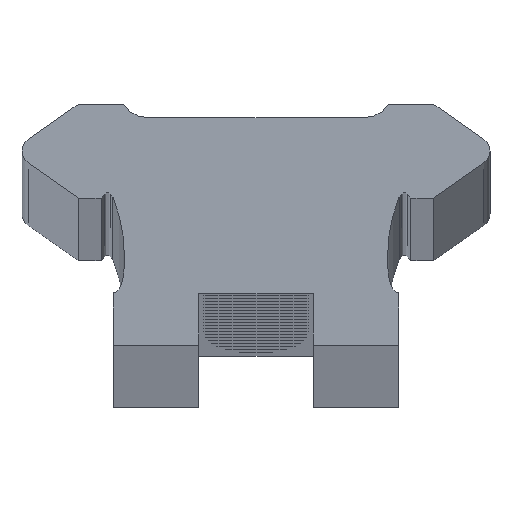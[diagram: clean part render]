
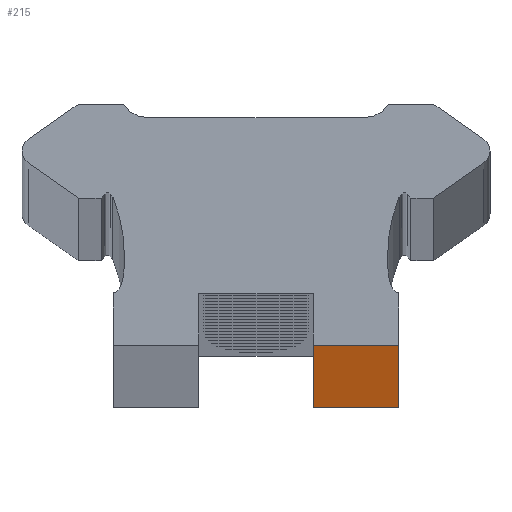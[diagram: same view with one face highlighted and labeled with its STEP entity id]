
A CAD part, top view. The second image highlights one B-rep face of the part: STEP entity #215.
In plain terms, the highlighted planar face has unit normal (0, -1, 0).
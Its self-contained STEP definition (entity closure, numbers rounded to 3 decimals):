
#215=ADVANCED_FACE('',(#545),#546,.T.);
#545=FACE_OUTER_BOUND('',#902,.T.);
#546=PLANE('',#903);
#902=EDGE_LOOP('',(#1959,#1960,#1961,#1962));
#903=AXIS2_PLACEMENT_3D('',#1963,#1964,#1965);
#1959=ORIENTED_EDGE('',*,*,#2480,.T.);
#1960=ORIENTED_EDGE('',*,*,#2481,.F.);
#1961=ORIENTED_EDGE('',*,*,#2482,.T.);
#1962=ORIENTED_EDGE('',*,*,#2478,.T.);
#1963=CARTESIAN_POINT('',(5.25,0.0,0.0));
#1964=DIRECTION('',(0.0,-1.0,0.0));
#1965=DIRECTION('',(1.0,0.0,0.0));
#2478=EDGE_CURVE('',#3089,#3087,#3090,.T.);
#2480=EDGE_CURVE('',#3087,#3092,#3093,.T.);
#2481=EDGE_CURVE('',#3094,#3092,#3095,.T.);
#2482=EDGE_CURVE('',#3094,#3089,#3096,.T.);
#3087=VERTEX_POINT('',#3854);
#3089=VERTEX_POINT('',#3857);
#3090=LINE('',#3858,#3859);
#3092=VERTEX_POINT('',#3862);
#3093=LINE('',#3863,#3864);
#3094=VERTEX_POINT('',#3865);
#3095=LINE('',#3866,#3867);
#3096=LINE('',#3868,#3869);
#3854=CARTESIAN_POINT('',(7.5,0.0,1886.0));
#3857=CARTESIAN_POINT('',(7.5,0.0,0.0));
#3858=CARTESIAN_POINT('',(7.5,0.0,0.0));
#3859=VECTOR('',#4670,1.0);
#3862=CARTESIAN_POINT('',(3.0,0.0,1886.0));
#3863=CARTESIAN_POINT('',(3.0,0.0,1886.0));
#3864=VECTOR('',#4672,1.0);
#3865=CARTESIAN_POINT('',(3.0,0.0,0.0));
#3866=CARTESIAN_POINT('',(3.0,0.0,0.0));
#3867=VECTOR('',#4673,1.0);
#3868=CARTESIAN_POINT('',(3.0,0.0,0.0));
#3869=VECTOR('',#4674,1.0);
#4670=DIRECTION('',(0.0,0.0,1.0));
#4672=DIRECTION('',(-1.0,-0.0,-0.0));
#4673=DIRECTION('',(0.0,0.0,1.0));
#4674=DIRECTION('',(1.0,0.0,0.0));
